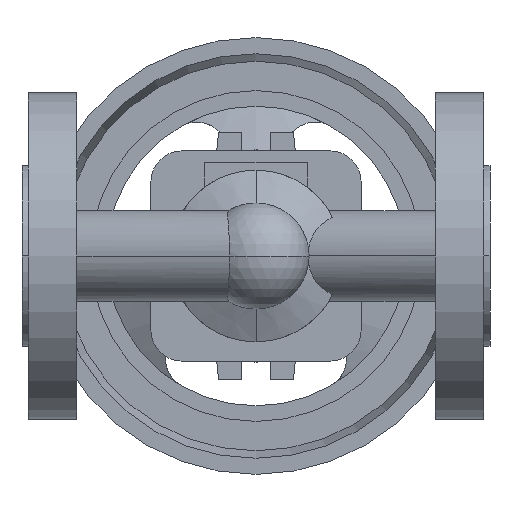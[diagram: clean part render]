
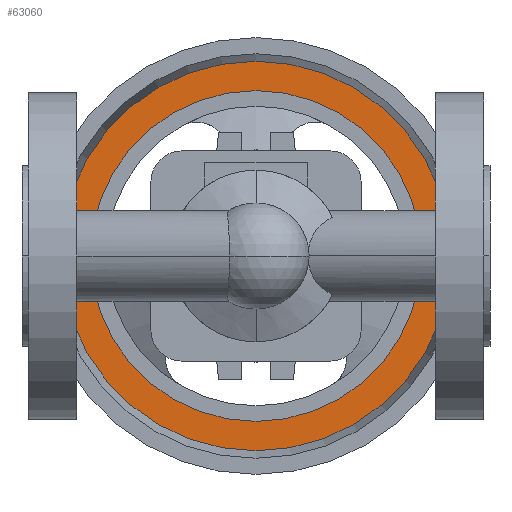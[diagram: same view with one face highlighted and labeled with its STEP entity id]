
A CAD part, front view. The second image highlights one B-rep face of the part: STEP entity #63060.
In plain terms, the highlighted planar face has unit normal (0, -1, 0).
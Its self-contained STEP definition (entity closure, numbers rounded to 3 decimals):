
#62510=CARTESIAN_POINT('',(12.588,234.7,0.));
#62520=VERTEX_POINT('',#62510);
#62600=CARTESIAN_POINT('',(137.412,234.7,0.))
;
#62610=VERTEX_POINT('',#62600);
#62640=CARTESIAN_POINT('',(75.,234.7,0.));
#62650=DIRECTION('',(0.,1.,0.));
#62660=DIRECTION('',(-1.,0.,0.));
#62670=AXIS2_PLACEMENT_3D('',#62640,#62650,#62660);
#62680=CIRCLE('',#62670,62.412);
#62690=EDGE_CURVE('',#62520,#62610,#62680,.T.);
#62810=CARTESIAN_POINT('',(17.294,234.7,0.))
;
#62820=DIRECTION('',(0.,-1.,0.));
#62830=DIRECTION('',(1.,0.,0.));
#62840=AXIS2_PLACEMENT_3D('',#62810,#62820,#62830);
#62850=PLANE('',#62840);
#62860=EDGE_CURVE('',#62610,#62520,#62680,.T.);
#62870=ORIENTED_EDGE('',*,*,#62860,.F.);
#62880=ORIENTED_EDGE('',*,*,#62690,.F.);
#62890=EDGE_LOOP('',(#62880,#62870));
#62900=FACE_OUTER_BOUND('',#62890,.T.);
#62910=CARTESIAN_POINT('',(75.,234.7,0.));
#62920=DIRECTION('',(0.,1.,0.));
#62930=DIRECTION('',(-1.,0.,0.));
#62940=AXIS2_PLACEMENT_3D('',#62910,#62920,#62930);
#62950=CIRCLE('',#62940,53.);
#62960=CARTESIAN_POINT('',(128.,234.7,0.));
#62970=VERTEX_POINT('',#62960);
#62980=CARTESIAN_POINT('',(22.,234.7,0.));
#62990=VERTEX_POINT('',#62980);
#63000=EDGE_CURVE('',#62970,#62990,#62950,.T.);
#63010=ORIENTED_EDGE('',*,*,#63000,.T.);
#63020=EDGE_CURVE('',#62990,#62970,#62950,.T.);
#63030=ORIENTED_EDGE('',*,*,#63020,.T.);
#63040=EDGE_LOOP('',(#63030,#63010));
#63050=FACE_BOUND('',#63040,.T.);
#63060=ADVANCED_FACE('',(#62900,#63050),#62850,.T.);
